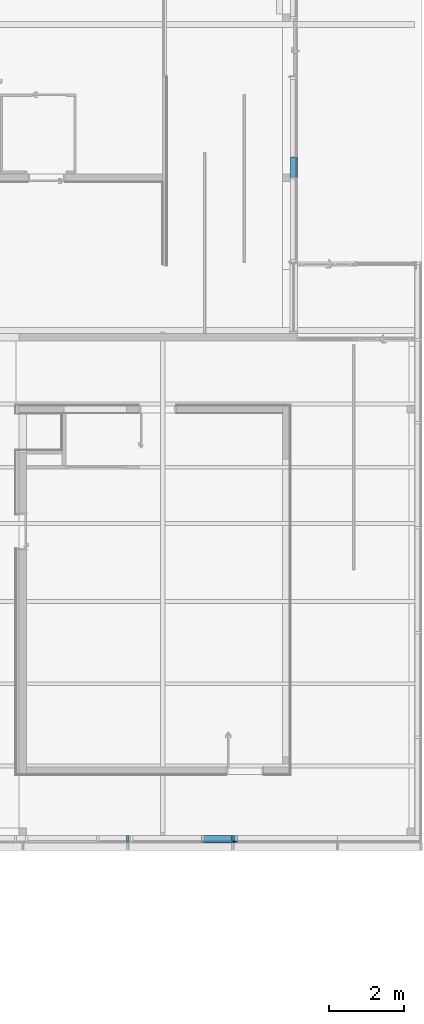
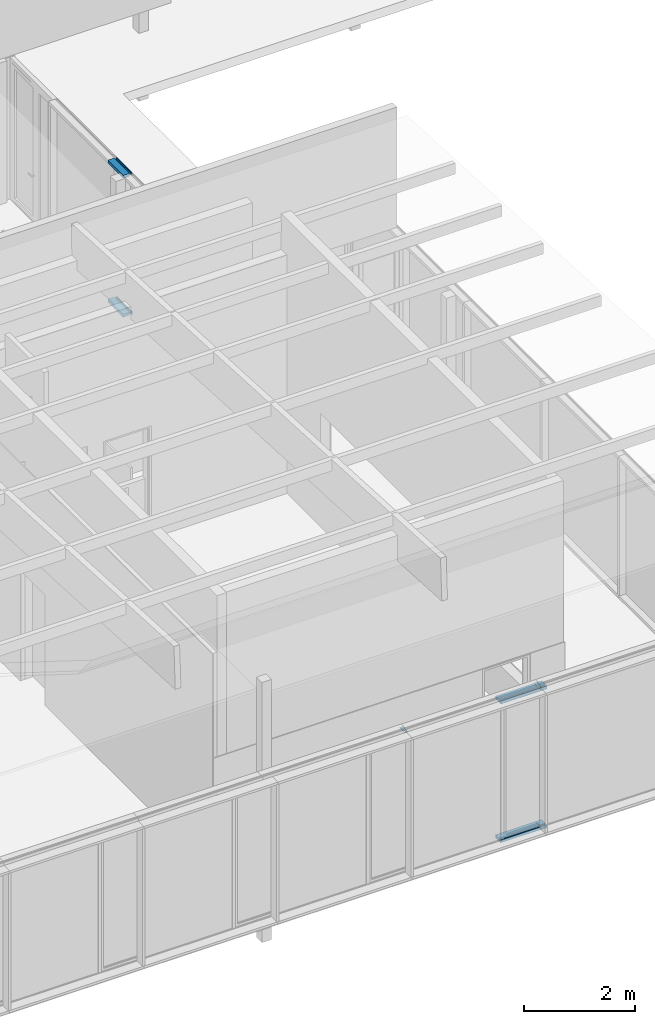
# One storey, part 35 of 240: 8 members, 2 elements without a shape of their own.
"""IFC2X3 building model written with IfcOpenShell, lengths in centimetres."""

from ifc_helpers import new_model, entity, si_unit, converted_unit, derived_unit, direction, frame, origin, place, context, subcontext, project, spatial, polyline, outline, extrude, source, transform, mapped, material, type_object, type_shapes, element, aggregate, save


model = new_model("IFC2X3")

# Units and contexts
model_context = context("Model", 3, precision=0.001, world=origin(), true_north=direction((6.12303176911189e-17, 1.0)))
body_context = subcontext(model_context, "Body", "Model", "MODEL_VIEW")
ifc_project = project(units=[si_unit("LENGTHUNIT", "METRE", prefix="CENTI"), si_unit("AREAUNIT", "SQUARE_METRE"), si_unit("VOLUMEUNIT", "CUBIC_METRE"), converted_unit("PLANEANGLEUNIT", "DEGREE", entity("IfcRatioMeasure", 0.0174532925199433), si_unit("PLANEANGLEUNIT", "RADIAN"), dimensions=[0, 0, 0, 0, 0, 0, 0]), si_unit("MASSUNIT", "GRAM", prefix="KILO"), derived_unit("MASSDENSITYUNIT", [(si_unit("MASSUNIT", "GRAM", prefix="KILO"), 1), (si_unit("LENGTHUNIT", "METRE"), -3)]), si_unit("TIMEUNIT", "SECOND"), si_unit("FREQUENCYUNIT", "HERTZ"), si_unit("THERMODYNAMICTEMPERATUREUNIT", "DEGREE_CELSIUS"), derived_unit("THERMALTRANSMITTANCEUNIT", [(si_unit("MASSUNIT", "GRAM", prefix="KILO"), 1), (si_unit("THERMODYNAMICTEMPERATUREUNIT", "KELVIN"), -1), (si_unit("TIMEUNIT", "SECOND"), -3)]), derived_unit("VOLUMETRICFLOWRATEUNIT", [(si_unit("LENGTHUNIT", "METRE"), 3), (si_unit("TIMEUNIT", "SECOND"), -1)]), si_unit("ELECTRICCURRENTUNIT", "AMPERE"), si_unit("ELECTRICVOLTAGEUNIT", "VOLT"), si_unit("POWERUNIT", "WATT"), si_unit("FORCEUNIT", "NEWTON", prefix="KILO"), si_unit("ILLUMINANCEUNIT", "LUX"), si_unit("LUMINOUSFLUXUNIT", "LUMEN"), si_unit("LUMINOUSINTENSITYUNIT", "CANDELA"), derived_unit("USERDEFINED", [(si_unit("MASSUNIT", "GRAM", prefix="KILO"), -1), (si_unit("LENGTHUNIT", "METRE"), -2), (si_unit("TIMEUNIT", "SECOND"), 3), (si_unit("LUMINOUSFLUXUNIT", "LUMEN"), 1)]), derived_unit("LINEARVELOCITYUNIT", [(si_unit("LENGTHUNIT", "METRE"), 1), (si_unit("TIMEUNIT", "SECOND"), -1)]), si_unit("PRESSUREUNIT", "PASCAL"), derived_unit("USERDEFINED", [(si_unit("LENGTHUNIT", "METRE"), -2), (si_unit("MASSUNIT", "GRAM", prefix="KILO"), 1), (si_unit("TIMEUNIT", "SECOND"), -2)])], contexts=[model_context])

# Site, building, storey
site_placement = place(None, frame((-2781.94577612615, 7442.24238424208, 0.0)))
site = spatial("IfcSite", under=ifc_project, at=site_placement, Name="Default", CompositionType="ELEMENT")
building_placement = place(site_placement, origin())
building = spatial("IfcBuilding", under=site, at=building_placement, CompositionType="ELEMENT")
storey_placement = place(building_placement, origin())
storey = spatial("IfcBuildingStorey", under=building, at=storey_placement, Name="N00 - COO", CompositionType="ELEMENT", Elevation=0.0)

# Curtain wall, members
curtain_wall_type = type_object("IfcCurtainWallType", Name="Mur-rideau:07 - mur rideau trame 280 cm", PredefinedType="NOTDEFINED")
curtain_wall_1_placement = place(building_placement, origin())
curtain_wall_1 = element("IfcCurtainWall", 1, at=curtain_wall_1_placement, inside=storey, type_object=curtain_wall_type, Name="Mur-rideau:07 - mur rideau trame 280 cm", ObjectType="Mur-rideau:07 - mur rideau trame 280 cm")
ifc_material = material(Name="Aluminium")
member_type_1 = type_object("IfcMemberType", Name="150 x 25mm Détails", PredefinedType="MEMBER")
shared_shape_1 = source(origin(), body_context, "Body", "SweptSolid", [
    extrude(outline(polyline([(-5.6666666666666, -3.24999999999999), (-3.66666666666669, -3.24999999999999), (-3.66666666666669, -0.868749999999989), (-0.166666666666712, -0.868749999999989), (-0.166666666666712, -3.25000000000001), (13.3333333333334, -3.25000000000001), (13.3333333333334, 3.24999999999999), (-0.16666666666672, 3.24999999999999), (-0.16666666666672, 0.868749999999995), (-3.66666666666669, 0.868749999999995), (-3.66666666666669, 3.25), (-5.6666666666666, 3.25), (-5.6666666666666, -3.24999999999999)])), frame((-3.24999999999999, -1.96666666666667, -13.2499999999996), z_axis=(0.0, 0.0, 1.0), x_axis=(0.0, -1.0, 0.0)), (0.0, 0.0, 1.0), 13.2499999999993),
])
type_shapes(member_type_1, [shared_shape_1])
member_1_placement = place(building_placement, frame((-9041.56674610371, -5562.80173441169, 6.5), z_axis=(1.0, 0.0, 0.0), x_axis=(0.0, 0.0, 1.0)))
member_1 = element("IfcMember", 2, at=member_1_placement, type_object=member_type_1, material=ifc_material, Name="Meneau rectangulaire:150 x 25mm Détails", ObjectType="Meneau rectangulaire:150 x 25mm Détails", context=body_context, shape_type="MappedRepresentation", body=[
    mapped(shared_shape_1, transform((0.0, 0.0, 0.0), scale=1.0)),
])
member_type_2 = type_object("IfcMemberType", Name="150 x 25mm Détails", PredefinedType="MEMBER")
shared_shape_2 = source(origin(), body_context, "Body", "SweptSolid", [
    extrude(outline(polyline([(-5.6666666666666, -3.24999999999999), (-3.66666666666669, -3.24999999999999), (-3.66666666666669, -0.868749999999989), (-0.166666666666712, -0.868749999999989), (-0.166666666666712, -3.25000000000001), (13.3333333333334, -3.25000000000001), (13.3333333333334, 3.24999999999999), (-0.16666666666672, 3.24999999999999), (-0.16666666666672, 0.868749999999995), (-3.66666666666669, 0.868749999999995), (-3.66666666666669, 3.25), (-5.6666666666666, 3.25), (-5.6666666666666, -3.24999999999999)])), frame((-3.24999999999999, -1.96666666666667, -83.2500000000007), z_axis=(0.0, 0.0, 1.0), x_axis=(0.0, -1.0, 0.0)), (0.0, 0.0, 1.0), 83.2500000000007),
])
type_shapes(member_type_2, [shared_shape_2])
member_2_placement = place(building_placement, frame((-9054.81674610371, -5562.80173441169, 6.5), z_axis=(1.0, 0.0, 0.0), x_axis=(0.0, 0.0, 1.0)))
member_2 = element("IfcMember", 3, at=member_2_placement, type_object=member_type_2, material=ifc_material, Name="Meneau rectangulaire:150 x 25mm Détails", ObjectType="Meneau rectangulaire:150 x 25mm Détails", context=body_context, shape_type="MappedRepresentation", body=[
    mapped(shared_shape_2, transform((0.0, 0.0, 0.0), scale=1.0)),
])
member_type_3 = type_object("IfcMemberType", Name="150 x 25mm Détails", PredefinedType="MEMBER")
shared_shape_3 = source(origin(), body_context, "Body", "SweptSolid", [
    extrude(outline(polyline([(-5.66666666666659, -3.25), (-3.66666666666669, -3.25), (-3.66666666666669, -0.868749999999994), (-0.166666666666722, -0.868749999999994), (-0.166666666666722, -3.25000000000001), (13.3333333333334, -3.24999999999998), (13.3333333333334, 3.25000000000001), (-0.166666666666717, 3.25000000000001), (-0.166666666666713, 0.868749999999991), (-3.66666666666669, 0.868749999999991), (-3.66666666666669, 3.24999999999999), (-5.66666666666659, 3.24999999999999), (-5.66666666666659, -3.25)])), frame((-3.24999999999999, -1.96666666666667, -83.250000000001), z_axis=(0.0, 0.0, 1.0), x_axis=(0.0, -1.0, 0.0)), (0.0, 0.0, 1.0), 83.2500000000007),
])
type_shapes(member_type_3, [shared_shape_3])
member_3_placement = place(building_placement, frame((-9138.06674610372, -5562.80173441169, 306.0), z_axis=(-1.0, 0.0, 0.0), x_axis=(0.0, 0.0, -1.0)))
member_3 = element("IfcMember", 4, at=member_3_placement, type_object=member_type_3, material=ifc_material, Name="Meneau rectangulaire:150 x 25mm Détails", ObjectType="Meneau rectangulaire:150 x 25mm Détails", context=body_context, shape_type="MappedRepresentation", body=[
    mapped(shared_shape_3, transform((0.0, 0.0, 0.0), scale=1.0)),
])
member_type_4 = type_object("IfcMemberType", Name="150 x 25mm Détails", PredefinedType="MEMBER")
shared_shape_4 = source(origin(), body_context, "Body", "SweptSolid", [
    extrude(outline(polyline([(-5.66666666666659, -3.25), (-3.66666666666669, -3.25), (-3.66666666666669, -0.868749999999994), (-0.166666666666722, -0.868749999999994), (-0.166666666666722, -3.25000000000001), (13.3333333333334, -3.24999999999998), (13.3333333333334, 3.25000000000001), (-0.166666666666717, 3.25000000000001), (-0.166666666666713, 0.868749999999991), (-3.66666666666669, 0.868749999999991), (-3.66666666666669, 3.24999999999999), (-5.66666666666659, 3.24999999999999), (-5.66666666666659, -3.25)])), frame((-3.24999999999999, -1.96666666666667, -13.2499999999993), z_axis=(0.0, 0.0, 1.0), x_axis=(0.0, -1.0, 0.0)), (0.0, 0.0, 1.0), 13.2499999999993),
])
type_shapes(member_type_4, [shared_shape_4])
member_4_placement = place(building_placement, frame((-9054.81674610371, -5562.80173441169, 306.0), z_axis=(-1.0, 0.0, 0.0), x_axis=(0.0, 0.0, -1.0)))
member_4 = element("IfcMember", 5, at=member_4_placement, type_object=member_type_4, material=ifc_material, Name="Meneau rectangulaire:150 x 25mm Détails", ObjectType="Meneau rectangulaire:150 x 25mm Détails", context=body_context, shape_type="MappedRepresentation", body=[
    mapped(shared_shape_4, transform((0.0, 0.0, 0.0), scale=1.0)),
])
member_type_5 = type_object("IfcMemberType", Name="150 x 25mm Détails", PredefinedType="MEMBER")
shared_shape_5 = source(origin(), body_context, "Body", "SweptSolid", [
    extrude(outline(polyline([(-5.6666666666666, -3.24999999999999), (-3.66666666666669, -3.24999999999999), (-3.66666666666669, -0.86874999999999), (-0.166666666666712, -0.86874999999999), (-0.166666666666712, -3.25000000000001), (13.3333333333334, -3.25000000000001), (13.3333333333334, 3.24999999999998), (-0.16666666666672, 3.24999999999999), (-0.16666666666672, 0.868749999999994), (-3.66666666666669, 0.868749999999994), (-3.66666666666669, 3.25), (-5.6666666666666, 3.25), (-5.6666666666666, -3.24999999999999)])), frame((0.0, -1.96666666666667, -0.508601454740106), z_axis=(0.0, 0.0, 1.0), x_axis=(0.0, -1.0, 0.0)), (0.0, 0.0, 1.0), 0.508601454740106),
])
type_shapes(member_type_5, [shared_shape_5])
member_5_placement = place(building_placement, frame((-9054.81674610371, -5562.80173441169, 312.5), z_axis=(0.0, 0.0, -1.0), x_axis=(1.0, 0.0, 0.0)))
member_5 = element("IfcMember", 6, at=member_5_placement, type_object=member_type_5, material=ifc_material, Name="Meneau rectangulaire:150 x 25mm Détails", ObjectType="Meneau rectangulaire:150 x 25mm Détails", context=body_context, shape_type="MappedRepresentation", body=[
    mapped(shared_shape_5, transform((0.0, 0.0, 0.0), scale=1.0)),
])
member_6_placement = place(building_placement, frame((-9334.81674610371, -5562.80173441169, 312.5), z_axis=(0.0, 0.0, -1.0), x_axis=(1.0, 0.0, 0.0)))
member_6 = element("IfcMember", 7, at=member_6_placement, type_object=member_type_5, material=ifc_material, Name="Meneau rectangulaire:150 x 25mm Détails", ObjectType="Meneau rectangulaire:150 x 25mm Détails", context=body_context, shape_type="MappedRepresentation", body=[
    mapped(shared_shape_5, transform((0.0, 0.0, 0.0), scale=1.0)),
])
aggregate(curtain_wall_1, [member_1, member_2, member_3, member_4, member_5, member_6])

curtain_wall_2_placement = place(building_placement, origin())
curtain_wall_2 = element("IfcCurtainWall", 8, at=curtain_wall_2_placement, inside=storey, type_object=curtain_wall_type, Name="Mur-rideau:07 - mur rideau trame 280 cm", ObjectType="Mur-rideau:07 - mur rideau trame 280 cm")
member_type_6 = type_object("IfcMemberType", Name="150 x 25mm Détails", PredefinedType="MEMBER")
shared_shape_6 = source(origin(), body_context, "Body", "SweptSolid", [
    extrude(outline(polyline([(-5.66666666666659, -3.25), (-3.66666666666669, -3.25), (-3.66666666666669, -0.868749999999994), (-0.166666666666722, -0.868749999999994), (-0.166666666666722, -3.25000000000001), (13.3333333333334, -3.24999999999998), (13.3333333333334, 3.25000000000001), (-0.166666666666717, 3.25000000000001), (-0.166666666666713, 0.868749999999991), (-3.66666666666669, 0.868749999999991), (-3.66666666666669, 3.24999999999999), (-5.66666666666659, 3.24999999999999), (-5.66666666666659, -3.25)])), frame((-3.24999999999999, -1.96666666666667, -55.6406275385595), z_axis=(0.0, 0.0, 1.0), x_axis=(0.0, -1.0, 0.0)), (0.0, 0.0, 1.0), 55.6406275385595),
])
type_shapes(member_type_6, [shared_shape_6])
member_7_placement = place(building_placement, frame((-8885.63218005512, -3790.71966115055, 0.0), z_axis=(0.0, -1.0, 0.0), x_axis=(0.0, 0.0, -1.0)))
member_7 = element("IfcMember", 9, at=member_7_placement, type_object=member_type_6, material=ifc_material, Name="Meneau rectangulaire:150 x 25mm Détails", ObjectType="Meneau rectangulaire:150 x 25mm Détails", context=body_context, shape_type="MappedRepresentation", body=[
    mapped(shared_shape_6, transform((0.0, 0.0, 0.0), scale=1.0)),
])
member_type_7 = type_object("IfcMemberType", Name="150 x 25mm Détails", PredefinedType="MEMBER")
shared_shape_7 = source(origin(), body_context, "Body", "SweptSolid", [
    extrude(outline(polyline([(-5.6666666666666, -3.24999999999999), (-3.66666666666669, -3.24999999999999), (-3.66666666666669, -0.868749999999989), (-0.166666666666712, -0.868749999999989), (-0.166666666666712, -3.25000000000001), (13.3333333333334, -3.25000000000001), (13.3333333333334, 3.24999999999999), (-0.16666666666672, 3.24999999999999), (-0.16666666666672, 0.868749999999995), (-3.66666666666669, 0.868749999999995), (-3.66666666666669, 3.25), (-5.6666666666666, 3.25), (-5.6666666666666, -3.24999999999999)])), frame((-3.24999999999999, -1.96666666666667, -55.6406275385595), z_axis=(0.0, 0.0, 1.0), x_axis=(0.0, -1.0, 0.0)), (0.0, 0.0, 1.0), 55.6406275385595),
])
type_shapes(member_type_7, [shared_shape_7])
member_8_placement = place(building_placement, frame((-8885.63218005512, -3735.07903361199, 313.0), z_axis=(0.0, 1.0, 0.0), x_axis=(0.0, 0.0, 1.0)))
member_8 = element("IfcMember", 10, at=member_8_placement, type_object=member_type_7, material=ifc_material, Name="Meneau rectangulaire:150 x 25mm Détails", ObjectType="Meneau rectangulaire:150 x 25mm Détails", context=body_context, shape_type="MappedRepresentation", body=[
    mapped(shared_shape_7, transform((0.0, 0.0, 0.0), scale=1.0)),
])
aggregate(curtain_wall_2, [member_7, member_8])

save(model, "model.ifc")
